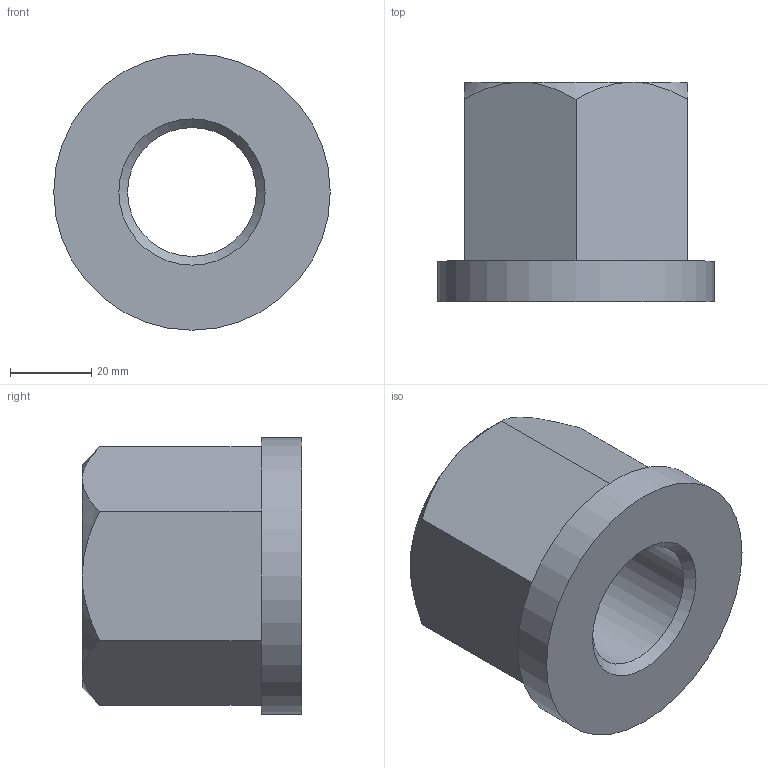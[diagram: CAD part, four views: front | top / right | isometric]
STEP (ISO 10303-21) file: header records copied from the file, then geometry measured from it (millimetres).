
FILE_DESCRIPTION( ( 'STEP AP203' ), '1' );
FILE_NAME( 'C:/Temp/Ganter_Step_05_03_2020/data/3_2/din6331/Hexagon nut DIN 6331-M36.stp', '2020-03-13T05:16:17', ( 'License CC BY-ND 4.0' ), ( 'CADENAS' ), ' ', 'PARTsolutions', ' ' );
FILE_SCHEMA( ( 'CONFIG_CONTROL_DESIGN' ) );
Length unit declared in the file: millimetre
Products named in the file (1): _Hexagon nut DIN 6331-M36
Bounding box: 68 x 54 x 68 mm (x, y, z)
Volume: 108246.1 mm3; surface area: 21162.8 mm2
Topology: 1 solids, 1 shells, 19 faces, 41 edges, 25 vertices
Faces by surface type: plane 9, cone 8, cylinder 2
Full cylindrical faces by diameter (mm): 31.67 x1, 68 x1
Entity records: 614 total; most frequent: CARTESIAN_POINT 188, DIRECTION 76, ORIENTED_EDGE 72, EDGE_CURVE 36, AXIS2_PLACEMENT_3D 32, EDGE_LOOP 26, VERTEX_POINT 24, FACE_OUTER_BOUND 21
